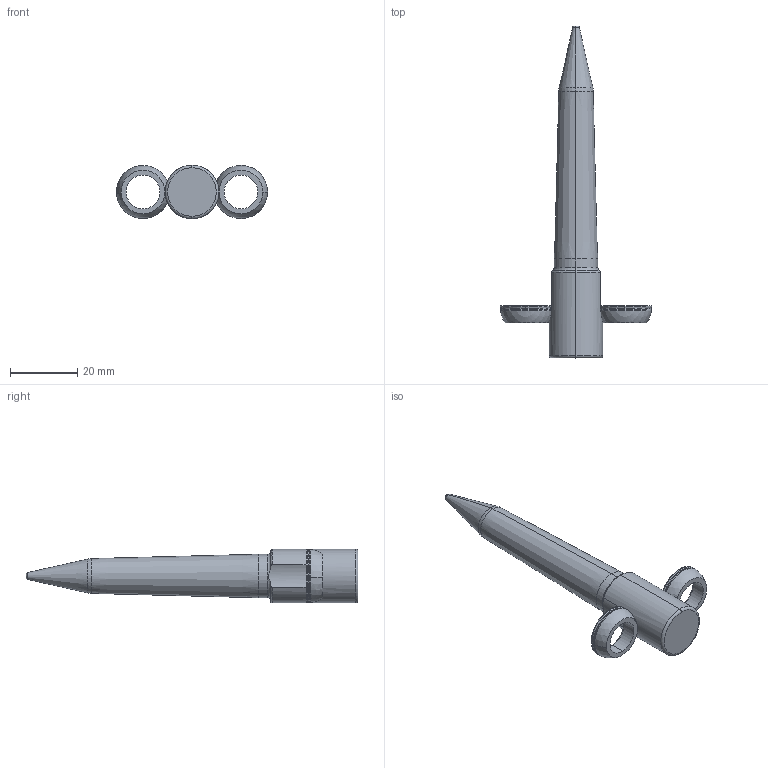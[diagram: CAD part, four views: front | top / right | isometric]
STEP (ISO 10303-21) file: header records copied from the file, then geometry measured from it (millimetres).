
FILE_DESCRIPTION (( 'STEP AP214' ), '1' );
FILE_NAME ('PA-T-13mm-2.5mm-50mm-3-A-F2.STEP', '2019-05-08T18:06:07', ( '' ), ( '' ), 'SwSTEP 2.0', 'SolidWorks 2017', '' );
FILE_SCHEMA (( 'AUTOMOTIVE_DESIGN' ));
Length unit declared in the file: inch
Products named in the file (3): SLPilot-PA-T-M_PA-T-13-2.5-50-3-A-F2; SLRadiusWasher_RadiusWasher-M; PA-T-13mm-2.5mm-50mm-3-A-F2
Assembly tree (3 placements, depth 2):
  PA-T-13mm-2.5mm-50mm-3-A-F2
    SLRadiusWasher_RadiusWasher-M  x2
    SLPilot-PA-T-M_PA-T-13-2.5-50-3-A-F2
Bounding box: 45.08 x 99.04 x 16 mm (x, y, z)
Volume: 12567.3 mm3; surface area: 5038.8 mm2
Topology: 3 solids, 3 shells, 61 faces, 136 edges, 81 vertices
Faces by surface type: torus 19, cylinder 18, cone 8, sphere 8, plane 8
Entity records: 1573 total; most frequent: CARTESIAN_POINT 352, DIRECTION 266, ORIENTED_EDGE 204, AXIS2_PLACEMENT_3D 123, EDGE_CURVE 102, CIRCLE 72, VERTEX_POINT 61, EDGE_LOOP 47
